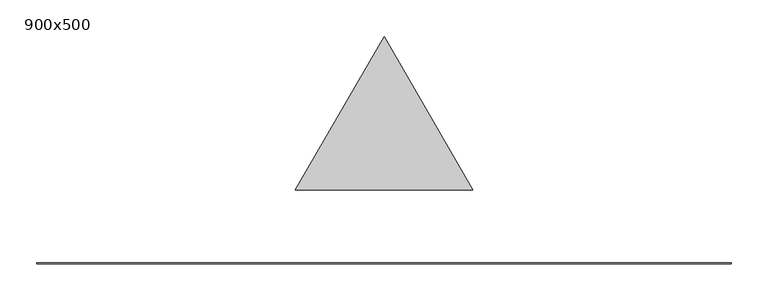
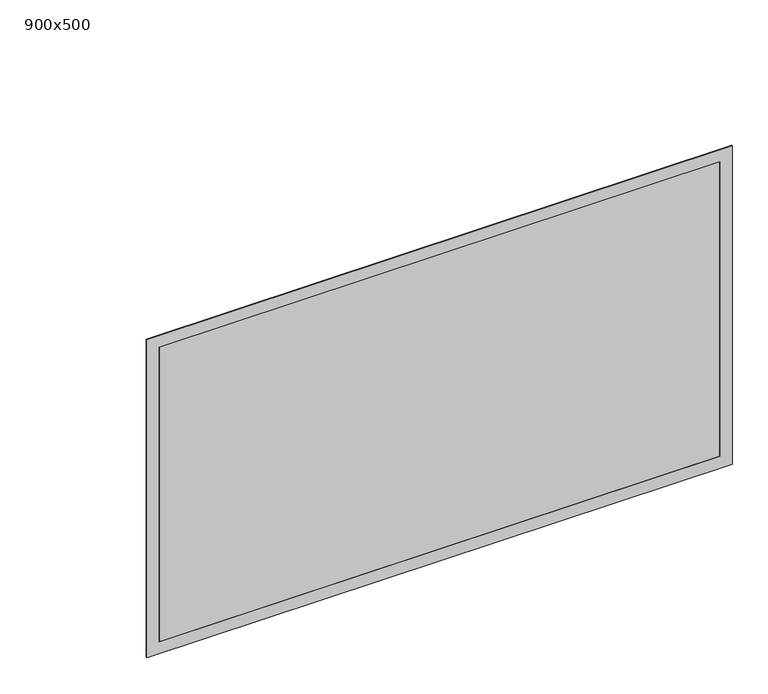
"""IFC4 building model written with IfcOpenShell, lengths in millimetres: air terminal geometry, Решетка декоративная supply : 900x500."""

from ifc_helpers import new_model, si_unit, frame, origin, place, context, project, spatial, polyline, outline, extrude, source, transform, mapped, element, save


def air_terminal_900x500_362d5619(model_context):
    return source(origin(), model_context, "Body", "SweptSolid", [
        extrude(outline(polyline([(120.0, 100.0), (0.0, 100.0), (-120.0, 100.0), (0.0, 307.8460969), (120.0, 100.0)])), frame((0.0, 0.0, -1.0), z_axis=(0.0, 0.0, 1.0), x_axis=(1.0, 0.0, 0.0)), (0.0, 0.0, 1.0), 2.0),
        extrude(outline(polyline([(270.0, 470.0), (270.0, -470.0), (-270.0, -470.0), (-270.0, 470.0), (270.0, 470.0)]), holes=[polyline([(250.0, 450.0), (-250.0, 450.0), (-250.0, -450.0), (250.0, -450.0), (250.0, 450.0)])]), frame((0.0, 0.0, 0.0), z_axis=(0.0, 1.0, 0.0), x_axis=(0.0, 0.0, 1.0)), (0.0, 0.0, 1.0), 1.5),
        extrude(outline(polyline([(450.0, 0.0), (-450.0, 0.0), (-450.0, 1.5), (450.0, 1.5), (450.0, 0.0)])), frame((0.0, 0.0, -250.0), z_axis=(0.0, 0.0, 1.0), x_axis=(1.0, 0.0, 0.0)), (0.0, 0.0, 1.0), 500.0),
    ])


if __name__ == "__main__":
    model = new_model("IFC4")
    model_context = context("Model", 3, world=origin())
    ifc_project = project(units=[si_unit("LENGTHUNIT", "METRE", prefix="MILLI")], contexts=[model_context])
    site = spatial("IfcSite", under=ifc_project)
    building = spatial("IfcBuilding", under=site)
    placement = place(None, origin())
    air_terminal_900x500_shape = air_terminal_900x500_362d5619(model_context)
    element("IfcAirTerminal", 1, ObjectType="Решетка декоративная supply : 900x500", at=placement, inside=building, context=model_context, shape_type="MappedRepresentation", body=[
        mapped(air_terminal_900x500_shape, transform((0.0, 0.0, 0.0), x_axis=(1.0, 0.0, 0.0), y_axis=(0.0, 1.0, 0.0), z_axis=(0.0, 0.0, 1.0))),
    ])
    save(model, "model.ifc")
